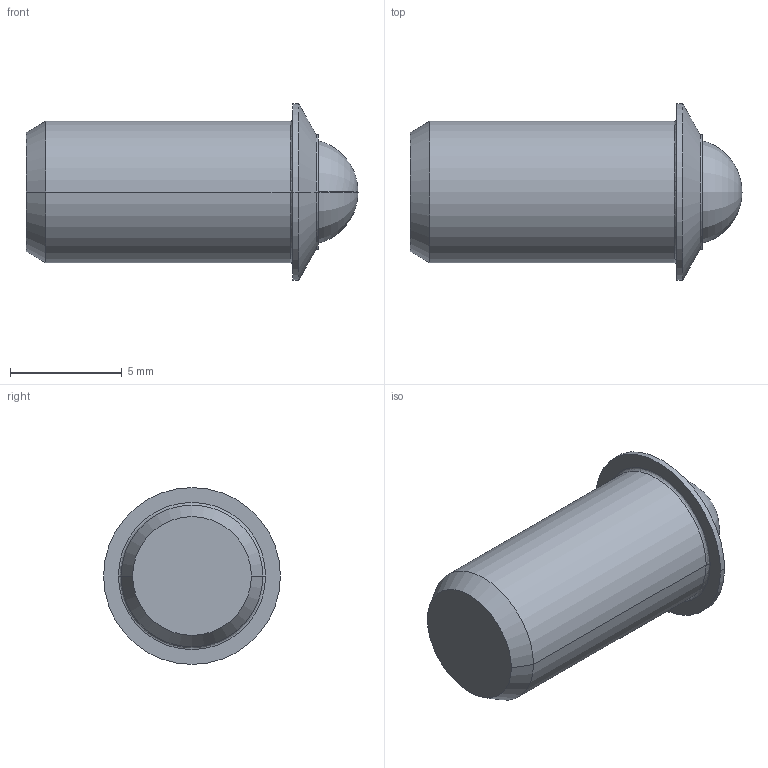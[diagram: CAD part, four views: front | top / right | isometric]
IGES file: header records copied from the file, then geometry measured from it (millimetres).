
Start section:  PTC IGES file: pfb54-part-3d.igs
Global section: file name: pfb54-part-3d.igs; native system: Pro/ENGINEER by Parametric Technology Corporation; preprocessor: 2002350; author: chant; organization: Unknown; date: 070201.163340; units: inch
Bounding box: 14.88 x 7.92 x 7.92 mm (x, y, z)
Surface area: 562.6 mm2 (no closed solid volume)
Topology: 0 solids, 0 shells, 20 faces, 101 edges, 111 vertices
Faces by surface type: revolution 16, bspline 4
